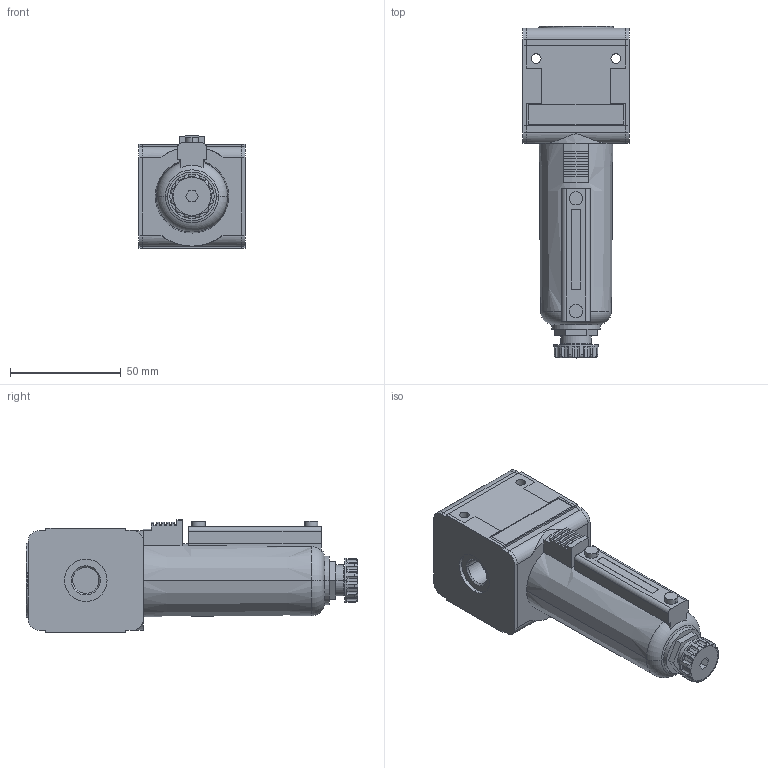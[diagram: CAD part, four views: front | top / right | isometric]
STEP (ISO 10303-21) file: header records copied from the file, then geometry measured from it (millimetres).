
FILE_DESCRIPTION((''),'2;1');
FILE_NAME('R412010788_ASM','2019-02-21T',('PDH2HC'),(''),'CREO PARAMETRIC BY PTC INC, 2016260','CREO PARAMETRIC BY PTC INC, 2016260','');
FILE_SCHEMA(('CONFIG_CONTROL_DESIGN'));
Length unit declared in the file: millimetre
Products named in the file (4): R412010788-A; R412010788-B; R412010788-D; R412010788_ASM
Assembly tree (4 placements, depth 2):
  R412010788_ASM
    R412010788-A
    R412010788-B
    R412010788-D  x2
Bounding box: 48 x 150 x 50.94 mm (x, y, z)
Volume: 190649 mm3; surface area: 39590.4 mm2
Topology: 4 solids, 4 shells, 268 faces, 719 edges, 476 vertices
Faces by surface type: plane 161, cylinder 95, cone 8, torus 4
Entity records: 8268 total; most frequent: CARTESIAN_POINT 1998, DIRECTION 1306, ORIENTED_EDGE 1282, EDGE_CURVE 641, AXIS2_PLACEMENT_3D 449, VERTEX_POINT 424, VECTOR 408, LINE 408
